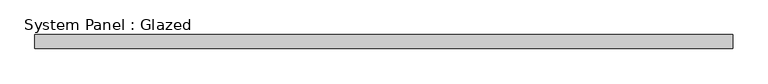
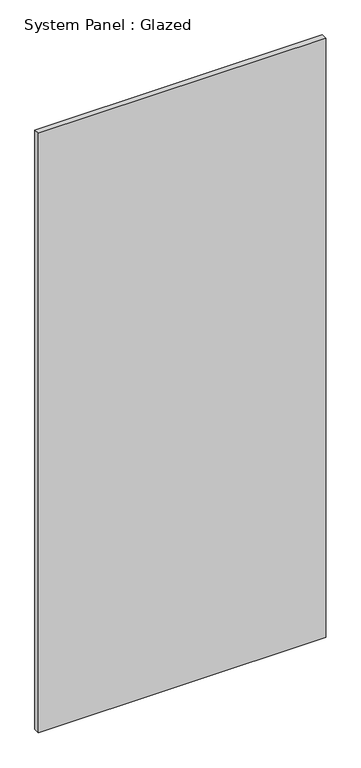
"""IFC4 building model written with IfcOpenShell, lengths in millimetres: plate geometry, System Panel : Glazed."""

from ifc_helpers import new_model, si_unit, origin, origin_with_axes, place, context, project, spatial, polyline, outline, extrude, source, transform, mapped, element, save


def system_panel_glazed_33e7060d(model_context):
    return source(origin(), model_context, "Body", "SweptSolid", [
        extrude(outline(polyline([(634.9999998, 19.05), (-634.9999998, 19.05), (-634.9999998, 44.45), (634.9999998, 44.45), (634.9999998, 19.05)])), origin_with_axes(), (0.0, 0.0, 1.0), 2800.0),
    ])


if __name__ == "__main__":
    model = new_model("IFC4")
    model_context = context("Model", 3, world=origin())
    ifc_project = project(units=[si_unit("LENGTHUNIT", "METRE", prefix="MILLI")], contexts=[model_context])
    site = spatial("IfcSite", under=ifc_project)
    building = spatial("IfcBuilding", under=site)
    placement = place(None, origin())
    system_panel_glazed_shape = system_panel_glazed_33e7060d(model_context)
    element("IfcPlate", 1, ObjectType="System Panel : Glazed", at=placement, inside=building, context=model_context, shape_type="MappedRepresentation", body=[
        mapped(system_panel_glazed_shape, transform((0.0, 0.0, 0.0), x_axis=(1.0, 0.0, 0.0), y_axis=(0.0, 1.0, 0.0), z_axis=(0.0, 0.0, 1.0))),
    ])
    save(model, "model.ifc")
